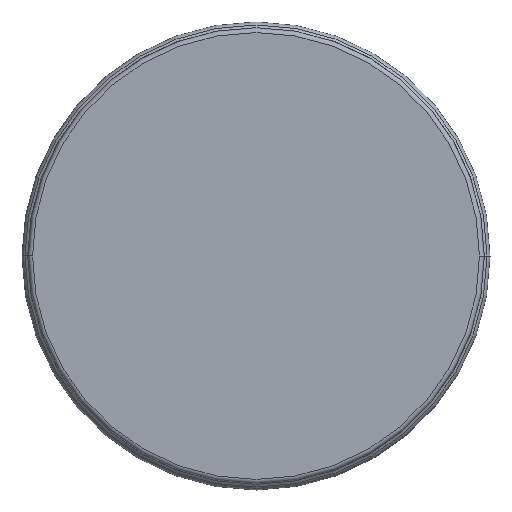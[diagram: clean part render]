
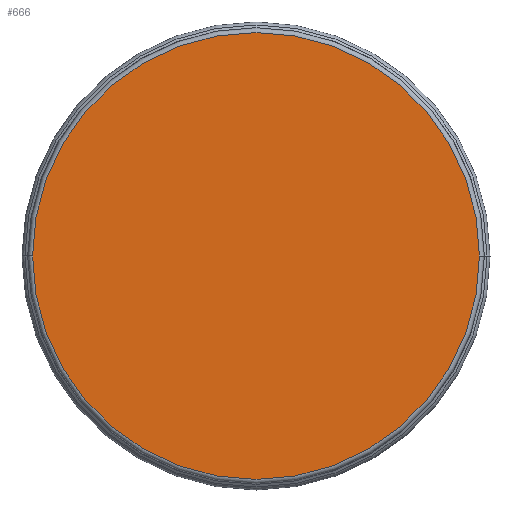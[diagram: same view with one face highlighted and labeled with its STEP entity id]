
A CAD part, left-side view. The second image highlights one B-rep face of the part: STEP entity #666.
In plain terms, the highlighted planar face has unit normal (-1, 0, 0).
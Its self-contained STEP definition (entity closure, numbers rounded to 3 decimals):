
#243=CARTESIAN_POINT('',(0.,0.,0.));
#244=DIRECTION('',(-1.,0.,0.));
#245=DIRECTION('',(0.,1.,0.));
#246=AXIS2_PLACEMENT_3D('',#243,#244,#245);
#251=CARTESIAN_POINT('',(0.,0.,0.));
#252=DIRECTION('',(1.,0.,0.));
#253=DIRECTION('',(0.,1.,0.));
#254=AXIS2_PLACEMENT_3D('',#251,#252,#253);
#410=CARTESIAN_POINT('',(0.,100.25,0.));
#412=VERTEX_POINT('',#410);
#416=CARTESIAN_POINT('',(0.,-100.25,0.));
#418=VERTEX_POINT('',#416);
#657=CARTESIAN_POINT('',(0.,0.,0.));
#658=DIRECTION('',(1.,0.,0.));
#659=DIRECTION('',(0.,-1.,0.));
#660=AXIS2_PLACEMENT_3D('',#657,#658,#659);
#661=PLANE('',#660);
#662=ORIENTED_EDGE('',*,*,#650,.F.);
#663=ORIENTED_EDGE('',*,*,#639,.T.);
#664=EDGE_LOOP('',(#662,#663));
#665=FACE_OUTER_BOUND('',#664,.F.);
#247=CIRCLE('',#246,100.25);
#255=CIRCLE('',#254,100.25);
#639=EDGE_CURVE('',#412,#418,#255,.T.);
#650=EDGE_CURVE('',#412,#418,#247,.T.);
#666=ADVANCED_FACE('',(#665),#661,.F.);
